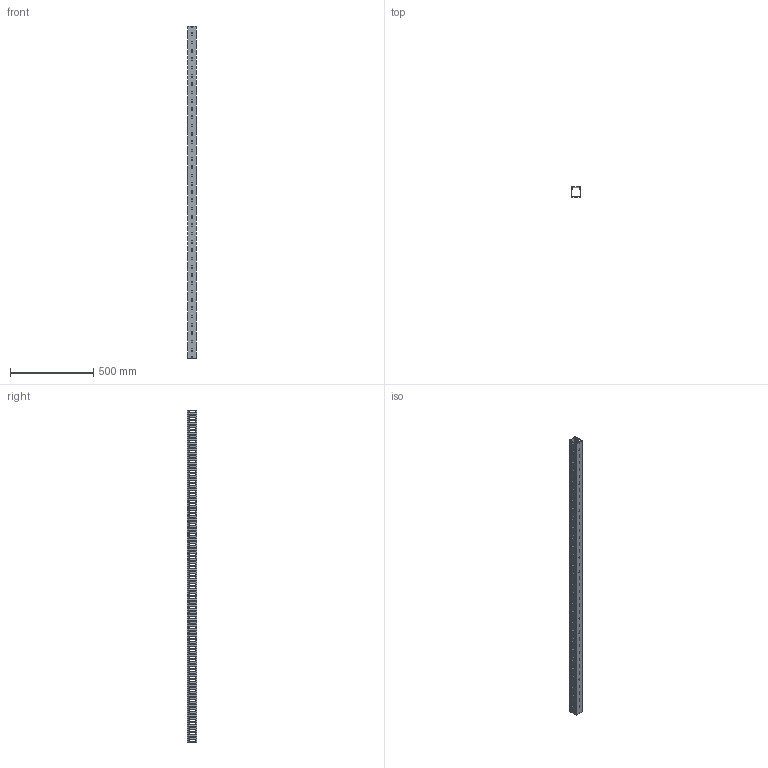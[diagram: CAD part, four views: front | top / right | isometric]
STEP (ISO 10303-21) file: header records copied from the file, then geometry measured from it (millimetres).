
FILE_DESCRIPTION (( 'STEP AP214' ), '1' );
FILE_NAME ('KD-56-20-H.STEP', '2020-02-19T00:28:58', ( '' ), ( '' ), 'SwSTEP 2.0', 'SolidWorks 2018', '' );
FILE_SCHEMA (( 'AUTOMOTIVE_DESIGN' ));
Length unit declared in the file: millimetre
Products named in the file (3): KD-56-20-H-body; KD-56-20-cover; KD-56-20-H
Assembly tree (2 placements, depth 2):
  KD-56-20-H
    KD-56-20-H-body
    KD-56-20-cover
Bounding box: 52 x 60.17 x 2000 mm (x, y, z)
Volume: 722001.9 mm3; surface area: 917287.1 mm2
Topology: 2 solids, 2 shells, 1867 faces, 5589 edges, 3726 vertices
Faces by surface type: cylinder 957, plane 910
Entity records: 64503 total; most frequent: DIRECTION 11247, CARTESIAN_POINT 11187, ORIENTED_EDGE 11178, EDGE_CURVE 5589, AXIS2_PLACEMENT_3D 3786, VERTEX_POINT 3726, VECTOR 3675, LINE 3675
